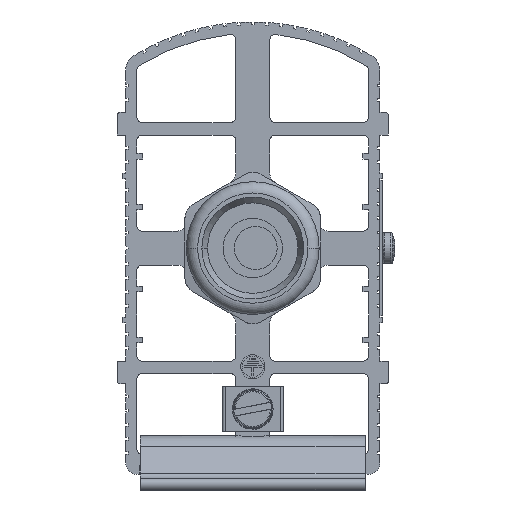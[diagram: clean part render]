
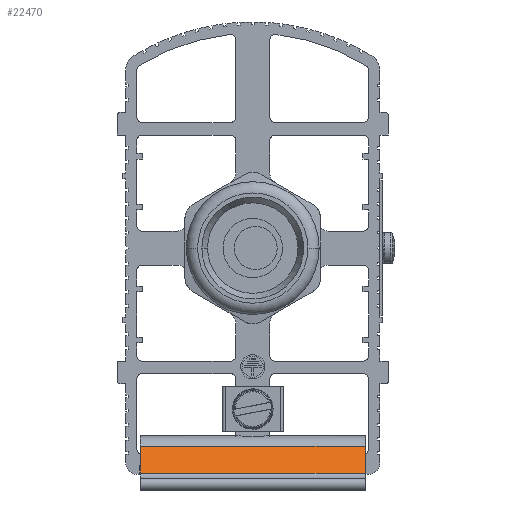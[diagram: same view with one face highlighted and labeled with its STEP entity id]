
A CAD part, front view. The second image highlights one B-rep face of the part: STEP entity #22470.
In plain terms, the highlighted planar face has unit normal (0, -0.866, 0.5).
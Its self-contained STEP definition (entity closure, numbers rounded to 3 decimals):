
#295 = EDGE_LOOP ( 'NONE', ( #25140, #23624, #24498, #16533 ) ) ;
#2790 = EDGE_CURVE ( 'NONE', #19770, #7928, #25064, .T. ) ;
#3674 = PLANE ( 'NONE',  #27382 ) ;
#3773 = DIRECTION ( 'NONE',  ( 0., -0.5, -0.866 ) ) ;
#4156 = DIRECTION ( 'NONE',  ( -1., 0., 0. ) ) ;
#4467 = LINE ( 'NONE', #14344, #8918 ) ;
#4487 = VECTOR ( 'NONE', #20351, 1000. ) ;
#5545 = DIRECTION ( 'NONE',  ( -1., 0., 0. ) ) ;
#6151 = CARTESIAN_POINT ( 'NONE',  ( -19.9, -3.291, -35.1 ) ) ;
#6197 = CARTESIAN_POINT ( 'NONE',  ( 19.9, -3.291, -35.1 ) ) ;
#6215 = CARTESIAN_POINT ( 'NONE',  ( 19.9, -6.004, -39.8 ) ) ;
#7928 = VERTEX_POINT ( 'NONE', #6151 ) ;
#8918 = VECTOR ( 'NONE', #5545, 1000. ) ;
#9647 = EDGE_CURVE ( 'NONE', #7928, #25981, #10835, .T. ) ;
#9862 = VECTOR ( 'NONE', #4156, 1000. ) ;
#10835 = LINE ( 'NONE', #19611, #12249 ) ;
#12249 = VECTOR ( 'NONE', #28478, 1000. ) ;
#12934 = VERTEX_POINT ( 'NONE', #6215 ) ;
#13137 = CARTESIAN_POINT ( 'NONE',  ( -19.9, -6.004, -39.8 ) ) ;
#14344 = CARTESIAN_POINT ( 'NONE',  ( 19.9, -6.004, -39.8 ) ) ;
#15005 = CARTESIAN_POINT ( 'NONE',  ( 19.9, -3.291, -35.1 ) ) ;
#15698 = CARTESIAN_POINT ( 'NONE',  ( 19.9, -6.004, -39.8 ) ) ;
#16533 = ORIENTED_EDGE ( 'NONE', *, *, #2790, .T. ) ;
#19221 = CARTESIAN_POINT ( 'NONE',  ( 19.9, -6.004, -39.8 ) ) ;
#19611 = CARTESIAN_POINT ( 'NONE',  ( -19.9, -6.004, -39.8 ) ) ;
#19770 = VERTEX_POINT ( 'NONE', #15005 ) ;
#20351 = DIRECTION ( 'NONE',  ( 0., -0.5, -0.866 ) ) ;
#22470 = ADVANCED_FACE ( 'NONE', ( #25543 ), #3674, .F. ) ;
#22745 = EDGE_CURVE ( 'NONE', #19770, #12934, #28226, .T. ) ;
#22913 = EDGE_CURVE ( 'NONE', #12934, #25981, #4467, .T. ) ;
#23624 = ORIENTED_EDGE ( 'NONE', *, *, #22913, .F. ) ;
#23884 = DIRECTION ( 'NONE',  ( 0., 0.866, -0.5 ) ) ;
#24498 = ORIENTED_EDGE ( 'NONE', *, *, #22745, .F. ) ;
#25064 = LINE ( 'NONE', #6197, #9862 ) ;
#25140 = ORIENTED_EDGE ( 'NONE', *, *, #9647, .T. ) ;
#25543 = FACE_OUTER_BOUND ( 'NONE', #295, .T. ) ;
#25981 = VERTEX_POINT ( 'NONE', #13137 ) ;
#27382 = AXIS2_PLACEMENT_3D ( 'NONE', #19221, #23884, #3773 ) ;
#28226 = LINE ( 'NONE', #15698, #4487 ) ;
#28478 = DIRECTION ( 'NONE',  ( 0., -0.5, -0.866 ) ) ;
